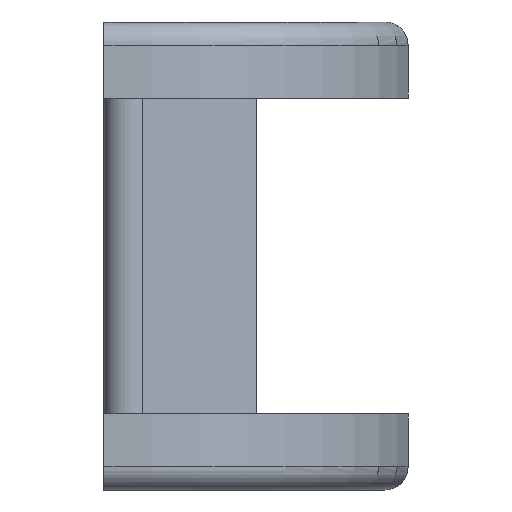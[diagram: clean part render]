
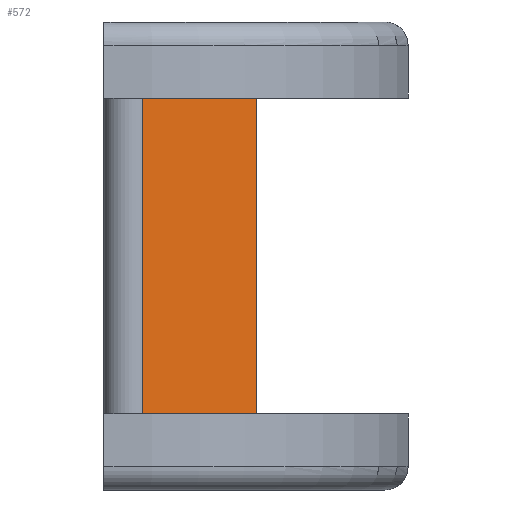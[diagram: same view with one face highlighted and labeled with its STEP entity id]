
A CAD part, front view. The second image highlights one B-rep face of the part: STEP entity #572.
In plain terms, the highlighted planar face has unit normal (0.654, -0.756, 0).
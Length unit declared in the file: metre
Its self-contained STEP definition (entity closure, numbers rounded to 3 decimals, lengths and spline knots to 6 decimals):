
#55=LINE('',#914,#105);
#66=LINE('',#943,#116);
#67=LINE('',#946,#117);
#68=LINE('',#947,#118);
#105=VECTOR('',#727,1.);
#116=VECTOR('',#754,1.);
#117=VECTOR('',#755,1.);
#118=VECTOR('',#756,1.);
#196=ORIENTED_EDGE('',*,*,#339,.F.);
#197=ORIENTED_EDGE('',*,*,#340,.T.);
#198=ORIENTED_EDGE('',*,*,#324,.T.);
#199=ORIENTED_EDGE('',*,*,#341,.F.);
#324=EDGE_CURVE('',#399,#398,#55,.T.);
#339=EDGE_CURVE('',#409,#410,#66,.T.);
#340=EDGE_CURVE('',#409,#399,#67,.T.);
#341=EDGE_CURVE('',#410,#398,#68,.T.);
#398=VERTEX_POINT('',#913);
#399=VERTEX_POINT('',#915);
#409=VERTEX_POINT('',#944);
#410=VERTEX_POINT('',#945);
#467=EDGE_LOOP('',(#196,#197,#198,#199));
#513=FACE_BOUND('',#467,.T.);
#554=PLANE('',#631);
#572=ADVANCED_FACE('',(#513),#554,.F.);
#631=AXIS2_PLACEMENT_3D('',#942,#752,#753);
#727=DIRECTION('',(0.756,0.654,0.));
#752=DIRECTION('',(-0.654,0.756,0.));
#753=DIRECTION('',(-0.756,-0.654,0.));
#754=DIRECTION('',(0.756,0.654,0.));
#755=DIRECTION('',(0.,0.,-1.));
#756=DIRECTION('',(0.,0.,-1.));
#913=CARTESIAN_POINT('',(0.,-0.035719,0.));
#914=CARTESIAN_POINT('',(-0.004128,-0.039291,0.));
#915=CARTESIAN_POINT('',(-0.006154,-0.041044,0.));
#942=CARTESIAN_POINT('',(-0.004128,-0.039291,0.017145));
#943=CARTESIAN_POINT('',(-0.004128,-0.039291,0.017145));
#944=CARTESIAN_POINT('',(-0.006154,-0.041044,0.017145));
#945=CARTESIAN_POINT('',(0.,-0.035719,0.017145));
#946=CARTESIAN_POINT('',(-0.006154,-0.041044,0.017145));
#947=CARTESIAN_POINT('',(0.,-0.035719,0.017145));
